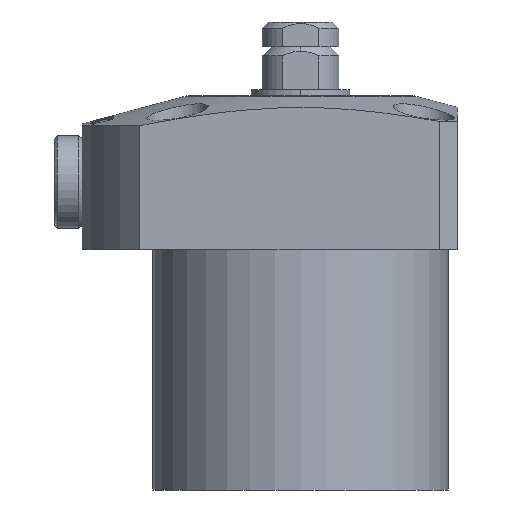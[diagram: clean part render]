
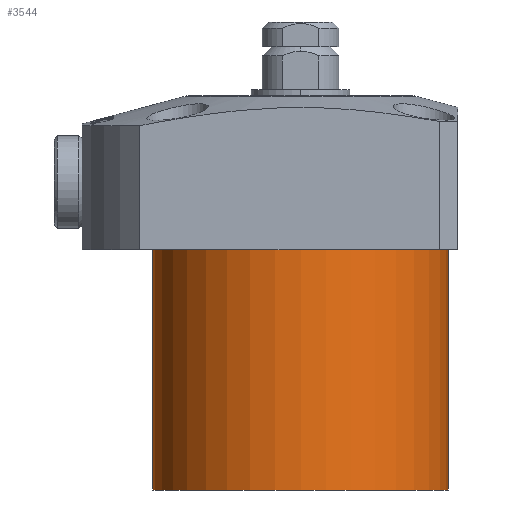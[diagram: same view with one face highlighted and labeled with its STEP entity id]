
A CAD part, front view. The second image highlights one B-rep face of the part: STEP entity #3544.
In plain terms, the highlighted cylindrical face has radius 24 mm (diameter 48 mm), a partial arc.
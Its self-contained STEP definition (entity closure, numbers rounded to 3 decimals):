
#495 = EDGE_CURVE ( 'NONE', #7801, #10264, #12696, .T. ) ;
#735 = VERTEX_POINT ( 'NONE', #4897 ) ;
#862 = VECTOR ( 'NONE', #7024, 1000. ) ;
#1141 = FACE_OUTER_BOUND ( 'NONE', #1586, .T. ) ;
#1217 = ORIENTED_EDGE ( 'NONE', *, *, #9588, .F. ) ;
#1483 = ORIENTED_EDGE ( 'NONE', *, *, #5953, .T. ) ;
#1586 = EDGE_LOOP ( 'NONE', ( #3019, #1483, #12078, #1217 ) ) ;
#1625 = VERTEX_POINT ( 'NONE', #4479 ) ;
#2104 = CARTESIAN_POINT ( 'NONE',  ( 24., 0., -39. ) ) ;
#2186 = CIRCLE ( 'NONE', #9507, 24. ) ;
#2328 = EDGE_CURVE ( 'NONE', #1625, #735, #11012, .T. ) ;
#2965 = CARTESIAN_POINT ( 'NONE',  ( 0., 0., 0. ) ) ;
#3019 = ORIENTED_EDGE ( 'NONE', *, *, #2328, .F. ) ;
#3544 = ADVANCED_FACE ( 'NONE', ( #1141 ), #11286, .T. ) ;
#3966 = DIRECTION ( 'NONE',  ( 1., 0., 0. ) ) ;
#4479 = CARTESIAN_POINT ( 'NONE',  ( -24., 0., -39. ) ) ;
#4782 = DIRECTION ( 'NONE',  ( 0., 0., 1. ) ) ;
#4897 = CARTESIAN_POINT ( 'NONE',  ( -24., 0., 0. ) ) ;
#4953 = DIRECTION ( 'NONE',  ( 0., 0., 1. ) ) ;
#5407 = CARTESIAN_POINT ( 'NONE',  ( 24., 0., -39. ) ) ;
#5953 = EDGE_CURVE ( 'NONE', #1625, #7801, #2186, .T. ) ;
#6731 = CARTESIAN_POINT ( 'NONE',  ( 0., 0., -39. ) ) ;
#7024 = DIRECTION ( 'NONE',  ( 0., 0., 1. ) ) ;
#7714 = DIRECTION ( 'NONE',  ( 1., 0., 0. ) ) ;
#7801 = VERTEX_POINT ( 'NONE', #2104 ) ;
#8482 = AXIS2_PLACEMENT_3D ( 'NONE', #6731, #4782, #7714 ) ;
#9507 = AXIS2_PLACEMENT_3D ( 'NONE', #10826, #4953, #11817 ) ;
#9588 = EDGE_CURVE ( 'NONE', #735, #10264, #10482, .T. ) ;
#9815 = VECTOR ( 'NONE', #10938, 1000. ) ;
#9850 = DIRECTION ( 'NONE',  ( 0., 0., 1. ) ) ;
#10264 = VERTEX_POINT ( 'NONE', #11367 ) ;
#10482 = CIRCLE ( 'NONE', #11148, 24. ) ;
#10826 = CARTESIAN_POINT ( 'NONE',  ( 0., 0., -39. ) ) ;
#10938 = DIRECTION ( 'NONE',  ( 0., 0., 1. ) ) ;
#11012 = LINE ( 'NONE', #11970, #862 ) ;
#11148 = AXIS2_PLACEMENT_3D ( 'NONE', #2965, #9850, #3966 ) ;
#11286 = CYLINDRICAL_SURFACE ( 'NONE', #8482, 24. ) ;
#11367 = CARTESIAN_POINT ( 'NONE',  ( 24., 0., 0. ) ) ;
#11817 = DIRECTION ( 'NONE',  ( 1., 0., 0. ) ) ;
#11970 = CARTESIAN_POINT ( 'NONE',  ( -24., 0., -39. ) ) ;
#12078 = ORIENTED_EDGE ( 'NONE', *, *, #495, .T. ) ;
#12696 = LINE ( 'NONE', #5407, #9815 ) ;
